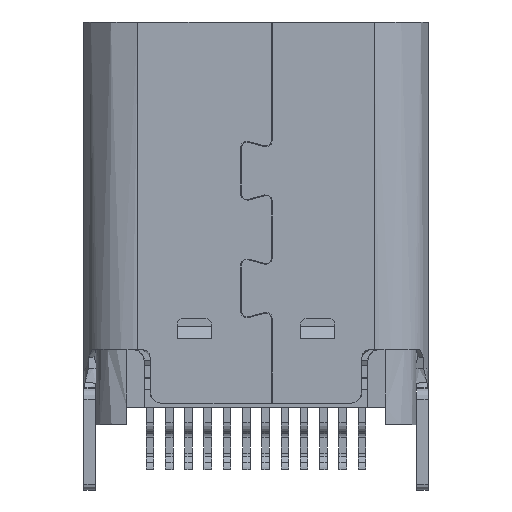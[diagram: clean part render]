
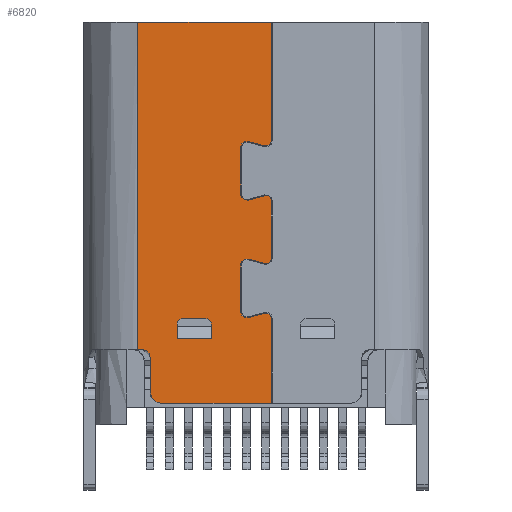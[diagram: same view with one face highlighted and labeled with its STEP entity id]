
A CAD part, front view. The second image highlights one B-rep face of the part: STEP entity #6820.
In plain terms, the highlighted planar face has unit normal (0, -1, 0).
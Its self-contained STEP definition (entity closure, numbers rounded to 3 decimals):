
#540=CARTESIAN_POINT('',(-109.6,-3.631,-39.493));
#550=VERTEX_POINT('',#540);
#580=CARTESIAN_POINT('',(0.,-3.631,-39.493));
#590=DIRECTION('',(1.,0.,0.));
#600=VECTOR('',#590,1.);
#610=LINE('',#580,#600);
#620=CARTESIAN_POINT('',(-113.07,-3.631,-39.493));
#630=VERTEX_POINT('',#620);
#640=EDGE_CURVE('',#630,#550,#610,.T.);
#4300=CARTESIAN_POINT('',(-108.655,-3.631,-45.068));
#4310=DIRECTION('',(-0.,1.,0.));
#4320=DIRECTION('',(1.,0.,0.));
#4330=AXIS2_PLACEMENT_3D('',#4300,#4310,#4320);
#4340=PLANE('',#4330);
#4350=CARTESIAN_POINT('',(-111.3,-3.631,-47.343
));
#4360=DIRECTION('',(0.,1.,0.));
#4370=DIRECTION('',(0.,0.,1.));
#4380=AXIS2_PLACEMENT_3D('',#4350,#4360,#4370);
#4390=CIRCLE('',#4380,0.15);
#4400=CARTESIAN_POINT('',(-111.3,-3.631,-47.193
));
#4410=VERTEX_POINT('',#4400);
#4420=CARTESIAN_POINT('',(-111.15,-3.631,-47.343
));
#4430=VERTEX_POINT('',#4420);
#4440=EDGE_CURVE('',#4410,#4430,#4390,.T.);
#4450=ORIENTED_EDGE('',*,*,#4440,.T.);
#4460=CARTESIAN_POINT('',(-111.9,-3.631,-47.193
));
#4470=DIRECTION('',(1.,0.,0.));
#4480=VECTOR('',#4470,0.5);
#4490=LINE('',#4460,#4480);
#4500=CARTESIAN_POINT('',(-111.9,-3.631,-47.193
));
#4510=VERTEX_POINT('',#4500);
#4520=EDGE_CURVE('',#4510,#4410,#4490,.T.);
#4530=ORIENTED_EDGE('',*,*,#4520,.T.);
#4540=CARTESIAN_POINT('',(-111.9,-3.631,-47.343
));
#4550=DIRECTION('',(0.,1.,0.));
#4560=DIRECTION('',(-1.,0.,0.));
#4570=AXIS2_PLACEMENT_3D('',#4540,#4550,#4560);
#4580=CIRCLE('',#4570,0.15);
#4590=CARTESIAN_POINT('',(-112.05,-3.631,-47.343
));
#4600=VERTEX_POINT('',#4590);
#4610=EDGE_CURVE('',#4600,#4510,#4580,.T.);
#4620=ORIENTED_EDGE('',*,*,#4610,.T.);
#4630=CARTESIAN_POINT('',(-112.05,-3.631,-47.699)
);
#4640=DIRECTION('',(0.,0.,1.));
#4650=VECTOR('',#4640,0.356);
#4660=LINE('',#4630,#4650);
#4670=CARTESIAN_POINT('',(-112.05,-3.631,-47.699)
);
#4680=VERTEX_POINT('',#4670);
#4690=EDGE_CURVE('',#4680,#4600,#4660,.T.);
#4700=ORIENTED_EDGE('',*,*,#4690,.T.);
#4710=CARTESIAN_POINT('',(-112.05,-3.631,-47.699)
);
#4720=DIRECTION('',(1.,0.,0.));
#4730=VECTOR('',#4720,0.8);
#4740=LINE('',#4710,#4730);
#4750=CARTESIAN_POINT('',(-111.15,-3.631,-47.699)
);
#4760=VERTEX_POINT('',#4750);
#4770=EDGE_CURVE('',#4680,#4760,#4740,.T.);
#4780=ORIENTED_EDGE('',*,*,#4770,.F.);
#4790=CARTESIAN_POINT('',(-111.15,-3.631,-47.343
));
#4800=DIRECTION('',(0.,0.,-1.));
#4810=VECTOR('',#4800,0.356);
#4820=LINE('',#4790,#4810);
#4830=EDGE_CURVE('',#4430,#4760,#4820,.T.);
#4840=ORIENTED_EDGE('',*,*,#4830,.T.);
#4850=EDGE_LOOP('',(#4840,#4780,#4700,#4620,#4530,#4450));
#4860=FACE_BOUND('',#4850,.T.);
#4870=CARTESIAN_POINT('',(-112.45,-3.631,-49.093));
#4880=DIRECTION('',(0.,1.,0.));
#4890=DIRECTION('',(1.,0.,0.));
#4900=AXIS2_PLACEMENT_3D('',#4870,#4880,#4890);
#4910=CIRCLE('',#4900,0.3);
#4920=CARTESIAN_POINT('',(-112.45,-3.631,-49.393));
#4930=VERTEX_POINT('',#4920);
#4940=CARTESIAN_POINT('',(-112.75,-3.631,-49.093));
#4950=VERTEX_POINT('',#4940);
#4960=EDGE_CURVE('',#4930,#4950,#4910,.T.);
#4970=ORIENTED_EDGE('',*,*,#4960,.F.);
#4980=CARTESIAN_POINT('',(-112.75,-3.631,0.));
#4990=DIRECTION('',(0.,0.,-1.));
#5000=VECTOR('',#4990,1.);
#5010=LINE('',#4980,#5000);
#5020=CARTESIAN_POINT('',(-112.75,-3.631,-48.193));
#5030=VERTEX_POINT('',#5020);
#5040=EDGE_CURVE('',#5030,#4950,#5010,.T.);
#5050=ORIENTED_EDGE('',*,*,#5040,.T.);
#5060=CARTESIAN_POINT('',(-112.95,-3.631,-48.193));
#5070=DIRECTION('',(0.,1.,0.));
#5080=DIRECTION('',(1.,0.,0.));
#5090=AXIS2_PLACEMENT_3D('',#5060,#5070,#5080);
#5100=CIRCLE('',#5090,0.2);
#5110=CARTESIAN_POINT('',(-112.95,-3.631,-47.993));
#5120=VERTEX_POINT('',#5110);
#5130=EDGE_CURVE('',#5120,#5030,#5100,.T.);
#5140=ORIENTED_EDGE('',*,*,#5130,.T.);
#5150=CARTESIAN_POINT('',(0.,-3.631,-47.993));
#5160=DIRECTION('',(1.,0.,0.));
#5170=VECTOR('',#5160,1.);
#5180=LINE('',#5150,#5170);
#5190=CARTESIAN_POINT('',(-113.07,-3.631,-47.993));
#5200=VERTEX_POINT('',#5190);
#5210=EDGE_CURVE('',#5200,#5120,#5180,.T.);
#5220=ORIENTED_EDGE('',*,*,#5210,.T.);
#5230=CARTESIAN_POINT('',(-113.07,-3.631,-40.643));
#5240=DIRECTION('',(0.,0.,-1.));
#5250=VECTOR('',#5240,7.35);
#5260=LINE('',#5230,#5250);
#5270=EDGE_CURVE('',#630,#5200,#5260,.T.);
#5280=ORIENTED_EDGE('',*,*,#5270,.T.);
#5290=ORIENTED_EDGE('',*,*,#640,.F.);
#5300=CARTESIAN_POINT('',(-109.6,-3.631,0.));
#5310=DIRECTION('',(0.,0.,-1.));
#5320=VECTOR('',#5310,1.);
#5330=LINE('',#5300,#5320);
#5340=CARTESIAN_POINT('',(-109.6,-3.631,-42.574));
#5350=VERTEX_POINT('',#5340);
#5360=EDGE_CURVE('',#550,#5350,#5330,.T.);
#5370=ORIENTED_EDGE('',*,*,#5360,.F.);
#5380=CARTESIAN_POINT('',(-109.74,-3.631,-42.574));
#5390=DIRECTION('',(0.,-1.,0.));
#5400=DIRECTION('',(-0.259,0.,-0.966));
#5410=AXIS2_PLACEMENT_3D('',#5380,#5390,#5400);
#5420=CIRCLE('',#5410,0.14);
#5430=CARTESIAN_POINT('',(-109.776,-3.631,
-42.71));
#5440=VERTEX_POINT('',#5430);
#5450=EDGE_CURVE('',#5440,#5350,#5420,.T.);
#5460=ORIENTED_EDGE('',*,*,#5450,.T.);
#5470=CARTESIAN_POINT('',(-109.776,-3.631,
-42.71));
#5480=DIRECTION('',(-0.966,0.,0.259));
#5490=VECTOR('',#5480,0.437);
#5500=LINE('',#5470,#5490);
#5510=CARTESIAN_POINT('',(-110.199,-3.631,
-42.596));
#5520=VERTEX_POINT('',#5510);
#5530=EDGE_CURVE('',#5440,#5520,#5500,.T.);
#5540=ORIENTED_EDGE('',*,*,#5530,.F.);
#5550=CARTESIAN_POINT('',(-110.24,-3.631,-42.751));
#5560=DIRECTION('',(0.,-1.,0.));
#5570=DIRECTION('',(0.259,0.,0.966));
#5580=AXIS2_PLACEMENT_3D('',#5550,#5560,#5570);
#5590=CIRCLE('',#5580,0.16);
#5600=CARTESIAN_POINT('',(-110.4,-3.631,-42.751));
#5610=VERTEX_POINT('',#5600);
#5620=EDGE_CURVE('',#5520,#5610,#5590,.T.);
#5630=ORIENTED_EDGE('',*,*,#5620,.F.);
#5640=CARTESIAN_POINT('',(-110.4,-3.631,-42.751));
#5650=DIRECTION('',(0.,0.,-1.));
#5660=VECTOR('',#5650,1.211);
#5670=LINE('',#5640,#5660);
#5680=CARTESIAN_POINT('',(-110.4,-3.631,-43.962));
#5690=VERTEX_POINT('',#5680);
#5700=EDGE_CURVE('',#5610,#5690,#5670,.T.);
#5710=ORIENTED_EDGE('',*,*,#5700,.F.);
#5720=CARTESIAN_POINT('',(-110.24,-3.631,-43.962));
#5730=DIRECTION('',(0.,-1.,0.));
#5740=DIRECTION('',(-1.,0.,0.));
#5750=AXIS2_PLACEMENT_3D('',#5720,#5730,#5740);
#5760=CIRCLE('',#5750,0.16);
#5770=CARTESIAN_POINT('',(-110.199,-3.631,
-44.117));
#5780=VERTEX_POINT('',#5770);
#5790=EDGE_CURVE('',#5690,#5780,#5760,.T.);
#5800=ORIENTED_EDGE('',*,*,#5790,.F.);
#5810=CARTESIAN_POINT('',(-110.199,-3.631,
-44.117));
#5820=DIRECTION('',(0.966,0.,0.259));
#5830=VECTOR('',#5820,0.437);
#5840=LINE('',#5810,#5830);
#5850=CARTESIAN_POINT('',(-109.776,-3.631,
-44.003));
#5860=VERTEX_POINT('',#5850);
#5870=EDGE_CURVE('',#5780,#5860,#5840,.T.);
#5880=ORIENTED_EDGE('',*,*,#5870,.F.);
#5890=CARTESIAN_POINT('',(-109.74,-3.631,-44.139));
#5900=DIRECTION('',(0.,-1.,0.));
#5910=DIRECTION('',(1.,0.,0.));
#5920=AXIS2_PLACEMENT_3D('',#5890,#5900,#5910);
#5930=CIRCLE('',#5920,0.14);
#5940=CARTESIAN_POINT('',(-109.6,-3.631,-44.139));
#5950=VERTEX_POINT('',#5940);
#5960=EDGE_CURVE('',#5950,#5860,#5930,.T.);
#5970=ORIENTED_EDGE('',*,*,#5960,.T.);
#5980=CARTESIAN_POINT('',(-109.6,-3.631,-44.139));
#5990=DIRECTION('',(0.,0.,-1.));
#6000=VECTOR('',#5990,1.486);
#6010=LINE('',#5980,#6000);
#6020=CARTESIAN_POINT('',(-109.6,-3.631,-45.624));
#6030=VERTEX_POINT('',#6020);
#6040=EDGE_CURVE('',#5950,#6030,#6010,.T.);
#6050=ORIENTED_EDGE('',*,*,#6040,.F.);
#6060=CARTESIAN_POINT('',(-109.74,-3.631,-45.624));
#6070=DIRECTION('',(0.,-1.,0.));
#6080=DIRECTION('',(-0.259,0.,-0.966));
#6090=AXIS2_PLACEMENT_3D('',#6060,#6070,#6080);
#6100=CIRCLE('',#6090,0.14);
#6110=CARTESIAN_POINT('',(-109.776,-3.631,
-45.76));
#6120=VERTEX_POINT('',#6110);
#6130=EDGE_CURVE('',#6120,#6030,#6100,.T.);
#6140=ORIENTED_EDGE('',*,*,#6130,.T.);
#6150=CARTESIAN_POINT('',(-109.776,-3.631,
-45.76));
#6160=DIRECTION('',(-0.966,0.,0.259));
#6170=VECTOR('',#6160,0.437);
#6180=LINE('',#6150,#6170);
#6190=CARTESIAN_POINT('',(-110.199,-3.631,
-45.646));
#6200=VERTEX_POINT('',#6190);
#6210=EDGE_CURVE('',#6120,#6200,#6180,.T.);
#6220=ORIENTED_EDGE('',*,*,#6210,.F.);
#6230=CARTESIAN_POINT('',(-110.24,-3.631,-45.801));
#6240=DIRECTION('',(0.,-1.,0.));
#6250=DIRECTION('',(0.259,0.,0.966));
#6260=AXIS2_PLACEMENT_3D('',#6230,#6240,#6250);
#6270=CIRCLE('',#6260,0.16);
#6280=CARTESIAN_POINT('',(-110.4,-3.631,-45.801));
#6290=VERTEX_POINT('',#6280);
#6300=EDGE_CURVE('',#6200,#6290,#6270,.T.);
#6310=ORIENTED_EDGE('',*,*,#6300,.F.);
#6320=CARTESIAN_POINT('',(-110.4,-3.631,-45.801));
#6330=DIRECTION('',(0.,0.,-1.));
#6340=VECTOR('',#6330,1.211);
#6350=LINE('',#6320,#6340);
#6360=CARTESIAN_POINT('',(-110.4,-3.631,-47.012));
#6370=VERTEX_POINT('',#6360);
#6380=EDGE_CURVE('',#6290,#6370,#6350,.T.);
#6390=ORIENTED_EDGE('',*,*,#6380,.F.);
#6400=CARTESIAN_POINT('',(-110.24,-3.631,-47.012));
#6410=DIRECTION('',(0.,-1.,0.));
#6420=DIRECTION('',(-1.,0.,0.));
#6430=AXIS2_PLACEMENT_3D('',#6400,#6410,#6420);
#6440=CIRCLE('',#6430,0.16);
#6450=CARTESIAN_POINT('',(-110.199,-3.631,
-47.167));
#6460=VERTEX_POINT('',#6450);
#6470=EDGE_CURVE('',#6370,#6460,#6440,.T.);
#6480=ORIENTED_EDGE('',*,*,#6470,.F.);
#6490=CARTESIAN_POINT('',(-110.199,-3.631,
-47.167));
#6500=DIRECTION('',(0.966,0.,0.259));
#6510=VECTOR('',#6500,0.437);
#6520=LINE('',#6490,#6510);
#6530=CARTESIAN_POINT('',(-109.776,-3.631,
-47.053));
#6540=VERTEX_POINT('',#6530);
#6550=EDGE_CURVE('',#6460,#6540,#6520,.T.);
#6560=ORIENTED_EDGE('',*,*,#6550,.F.);
#6570=CARTESIAN_POINT('',(-109.74,-3.631,-47.189));
#6580=DIRECTION('',(0.,-1.,0.));
#6590=DIRECTION('',(1.,0.,0.));
#6600=AXIS2_PLACEMENT_3D('',#6570,#6580,#6590);
#6610=CIRCLE('',#6600,0.14);
#6620=CARTESIAN_POINT('',(-109.6,-3.631,-47.189));
#6630=VERTEX_POINT('',#6620);
#6640=EDGE_CURVE('',#6630,#6540,#6610,.T.);
#6650=ORIENTED_EDGE('',*,*,#6640,.T.);
#6660=CARTESIAN_POINT('',(-109.6,-3.631,-49.493));
#6670=DIRECTION('',(0.,0.,1.));
#6680=VECTOR('',#6670,2.304);
#6690=LINE('',#6660,#6680);
#6700=CARTESIAN_POINT('',(-109.6,-3.631,-49.393));
#6710=VERTEX_POINT('',#6700);
#6720=EDGE_CURVE('',#6710,#6630,#6690,.T.);
#6730=ORIENTED_EDGE('',*,*,#6720,.T.);
#6740=CARTESIAN_POINT('',(0.,-3.631,-49.393));
#6750=DIRECTION('',(1.,0.,0.));
#6760=VECTOR('',#6750,1.);
#6770=LINE('',#6740,#6760);
#6780=EDGE_CURVE('',#4930,#6710,#6770,.T.);
#6790=ORIENTED_EDGE('',*,*,#6780,.T.);
#6800=EDGE_LOOP('',(#6790,#6730,#6650,#6560,#6480,#6390,#6310,#6220,
#6140,#6050,#5970,#5880,#5800,#5710,#5630,#5540,#5460,#5370,#5290,#5280,
#5220,#5140,#5050,#4970));
#6810=FACE_OUTER_BOUND('',#6800,.T.);
#6820=ADVANCED_FACE('',(#4860,#6810),#4340,.F.);
